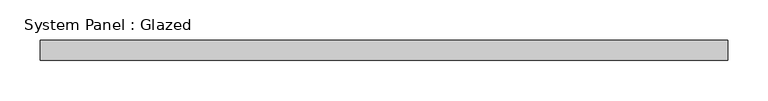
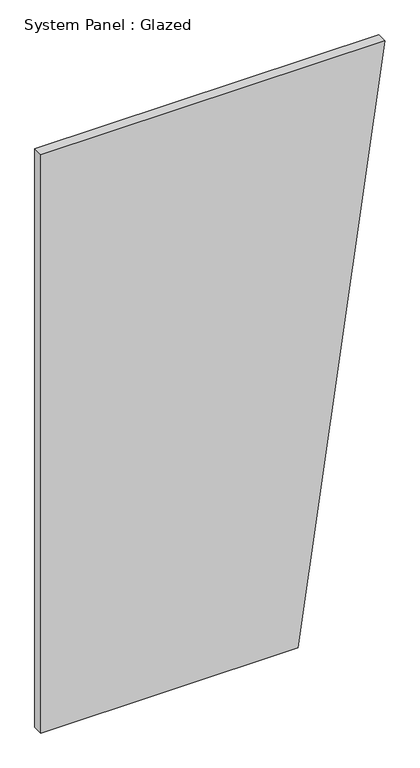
"""IFC4 building model written with IfcOpenShell, lengths in millimetres: plate geometry, System Panel : Glazed."""

import ifcopenshell
import ifcopenshell.guid

model = None  # the IFC model being written
_history = None  # IfcOwnerHistory: only IFC2X3 demands one
_inside = {}  # id of a spatial element -> (the spatial element, [elements in it])
_under = {}  # id of a project, library or spatial element -> (it, [spatial elements below it])
_declared = {}  # id of a project -> (the project, [libraries it declares])
_typed = {}  # id of a type object -> (the type object, [elements of that type])
_made_of = {}  # id of a material, layer set ... -> (it, [elements and type objects made of it])


def new_model(schema):
    """Start an empty IFC model of exactly this schema.

    Asked for "IFC4X3", IfcOpenShell would pick the latest addendum, in which some entities
    have other attributes; the version numbers below select the first issue.
    IFC2X3 requires an IfcOwnerHistory on every rooted entity: one is made here for all.
    """
    global model, _history
    if schema == "IFC4X3":
        model = ifcopenshell.file(schema_version=(4, 3, 0, 0))
    else:
        model = ifcopenshell.file(schema=schema)
    _inside.clear()
    _under.clear()
    _declared.clear()
    _typed.clear()
    _made_of.clear()
    _history = None
    if model.schema == "IFC2X3":
        org = make("IfcOrganization", Name="unknown")
        user = make(
            "IfcPersonAndOrganization",
            ThePerson=make("IfcPerson", FamilyName="unknown"),
            TheOrganization=org,
        )
        app = make(
            "IfcApplication",
            ApplicationDeveloper=org,
            Version="unknown",
            ApplicationFullName="unknown",
            ApplicationIdentifier="unknown",
        )
        _history = make(
            "IfcOwnerHistory",
            OwningUser=user,
            OwningApplication=app,
            ChangeAction="ADDED",
            CreationDate=0,
        )
    return model


def make(cls, **values):
    """One entity of the class cls with the attributes given. An attribute that is None is left unset."""
    return model.create_entity(
        cls, **{name: value for name, value in values.items() if value is not None}
    )


def rooted(cls, **values):
    """An entity with a GlobalId (a new one), such as an element, a storey or a relation."""
    return make(cls, GlobalId=ifcopenshell.guid.new(), OwnerHistory=_history, **values)


def si_unit(unit_type, name, prefix=None):
    """IfcSIUnit, for example si_unit("LENGTHUNIT", "METRE", prefix="MILLI")."""
    return make("IfcSIUnit", UnitType=unit_type, Prefix=prefix, Name=name)


def assignment(units):
    """IfcUnitAssignment: the units of a project."""
    return None if units is None else make("IfcUnitAssignment", Units=units)


def point(xyz):
    """IfcCartesianPoint."""
    return None if xyz is None else make("IfcCartesianPoint", Coordinates=xyz)


def direction(xyz):
    """IfcDirection."""
    return None if xyz is None else make("IfcDirection", DirectionRatios=xyz)


def frame(location, z_axis=None, x_axis=None):
    """IfcAxis2Placement3D, a coordinate frame: its origin and axes. An axis left out is left unset."""
    return make(
        "IfcAxis2Placement3D",
        Location=point(location),
        Axis=direction(z_axis),
        RefDirection=direction(x_axis),
    )


def origin():
    """The frame at (0, 0, 0) with its axes left unset."""
    return frame((0.0, 0.0, 0.0))


def place(relative_to, where):
    """IfcLocalPlacement: puts the frame where relative to a parent placement (None: the world)."""
    return make(
        "IfcLocalPlacement", PlacementRelTo=relative_to, RelativePlacement=where
    )


def context(
    kind, dimensions, precision=None, world=None, true_north=None, identifier=None
):
    """IfcGeometricRepresentationContext, for example the 3D "Model" context."""
    return make(
        "IfcGeometricRepresentationContext",
        ContextIdentifier=identifier,
        ContextType=kind,
        CoordinateSpaceDimension=dimensions,
        Precision=precision,
        WorldCoordinateSystem=world,
        TrueNorth=true_north,
    )


def project(units=None, contexts=None):
    """IfcProject with its units and contexts."""
    return rooted(
        "IfcProject",
        Name="project",
        RepresentationContexts=contexts,
        UnitsInContext=assignment(units),
    )


def spatial(cls, under=None, at=None, **own):
    """A site, building, storey or space (cls), placed at a placement, below another one or the project."""
    s = rooted(cls, ObjectPlacement=at, **own)
    if under is not None:
        _under.setdefault(under.id(), (under, []))[1].append(s)
    return s


def polyline(points):
    """IfcPolyline through the points."""
    return make("IfcPolyline", Points=[point(p) for p in points])


def outline(outer, holes=None, kind="AREA"):
    """IfcArbitraryClosedProfileDef: a profile drawn as a closed curve; with holes, ...WithVoids."""
    if holes is None:
        return make("IfcArbitraryClosedProfileDef", ProfileType=kind, OuterCurve=outer)
    return make(
        "IfcArbitraryProfileDefWithVoids",
        ProfileType=kind,
        OuterCurve=outer,
        InnerCurves=holes,
    )


def extrude(swept, where, along, depth):
    """IfcExtrudedAreaSolid: the profile swept, set in the frame where, extruded along a direction by depth."""
    return make(
        "IfcExtrudedAreaSolid",
        SweptArea=swept,
        Position=where,
        ExtrudedDirection=direction(along),
        Depth=depth,
    )


def shape(context_of_items, identifier, shape_type, items):
    """IfcShapeRepresentation: the items that make up one representation, for example the "Body"."""
    return make(
        "IfcShapeRepresentation",
        ContextOfItems=context_of_items,
        RepresentationIdentifier=identifier,
        RepresentationType=shape_type,
        Items=items,
    )


def source(mapping_origin, context_of_items, identifier, shape_type, items):
    """IfcRepresentationMap: a shape defined once, which mapped items show again and again."""
    return make(
        "IfcRepresentationMap",
        MappingOrigin=mapping_origin,
        MappedRepresentation=shape(context_of_items, identifier, shape_type, items),
    )


def transform(
    local_origin,
    x_axis=None,
    y_axis=None,
    z_axis=None,
    scale=None,
    scale2=None,
    scale3=None,
    uniform=True,
):
    """IfcCartesianTransformationOperator3D, or its non-uniform kind. x_axis, y_axis, z_axis: its Axis1, 2, 3."""
    if uniform:
        return make(
            "IfcCartesianTransformationOperator3D",
            Axis1=direction(x_axis),
            Axis2=direction(y_axis),
            LocalOrigin=point(local_origin),
            Scale=scale,
            Axis3=direction(z_axis),
        )
    return make(
        "IfcCartesianTransformationOperator3DnonUniform",
        Axis1=direction(x_axis),
        Axis2=direction(y_axis),
        LocalOrigin=point(local_origin),
        Scale=scale,
        Axis3=direction(z_axis),
        Scale2=scale2,
        Scale3=scale3,
    )


def mapped(mapping_source, mapping_target):
    """IfcMappedItem: shows the shape of a source again, moved by a transform."""
    return make(
        "IfcMappedItem", MappingSource=mapping_source, MappingTarget=mapping_target
    )


def made_of(thing, what):
    """Note that an element or type object is made of a material, layer set ...; save() writes the relation."""
    if what is not None:
        _made_of.setdefault(what.id(), (what, []))[1].append(thing)
    return thing


def element(
    cls,
    number,
    at=None,
    inside=None,
    cuts=None,
    type_object=None,
    material=None,
    context=None,
    identifier="Body",
    shape_type=None,
    held_by="IfcProductDefinitionShape",
    body=None,
    shapes=None,
    **own,
):
    """One element of the class cls, such as IfcWall. Its Tag is "e" and its number.

    at: its placement. inside: the storey or other place that contains it. cuts: it is an
    opening in that element (IfcRelVoidsElement). A single representation is given by context,
    identifier, shape_type and body (its items); several are given by shapes. held_by: the class
    of the entity that holds the representations. save() writes the other relations.
    """
    e = rooted(cls, Tag="e%d" % number, ObjectPlacement=at, **own)
    if body is not None:
        shapes = [shape(context, identifier, shape_type, body)]
    if shapes is not None:
        e.Representation = make(held_by, Representations=shapes)
    if inside is not None:
        _inside.setdefault(inside.id(), (inside, []))[1].append(e)
    if cuts is not None:
        rooted(
            "IfcRelVoidsElement", RelatingBuildingElement=cuts, RelatedOpeningElement=e
        )
    if type_object is not None:
        _typed.setdefault(type_object.id(), (type_object, []))[1].append(e)
    return made_of(e, material)


def aggregate(whole, parts):
    """IfcRelAggregates: a whole, such as a stair, and the parts it consists of."""
    return rooted("IfcRelAggregates", RelatingObject=whole, RelatedObjects=parts)


def save(model, path):
    """Write the relations noted so far, then the file.

    IfcRelAggregates (storeys below a building ...), IfcRelContainedInSpatialStructure (elements
    in a storey), IfcRelDefinesByType, IfcRelAssociatesMaterial and IfcRelDeclares: one each for
    every whole, place, type object, material and project.
    """
    for whole, parts in _under.values():
        aggregate(whole, parts)
    for where, things in _inside.values():
        rooted(
            "IfcRelContainedInSpatialStructure",
            RelatedElements=things,
            RelatingStructure=where,
        )
    for kind, things in _typed.values():
        rooted("IfcRelDefinesByType", RelatedObjects=things, RelatingType=kind)
    for what, things in _made_of.values():
        rooted("IfcRelAssociatesMaterial", RelatedObjects=things, RelatingMaterial=what)
    for by, libraries in _declared.values():
        rooted("IfcRelDeclares", RelatingContext=by, RelatedDefinitions=libraries)
    model.write(path)


def system_panel_glazed_42b3e05b(model_context):
    return source(origin(), model_context, "Body", "SweptSolid", [
        extrude(outline(polyline([(0.0, -429.4081958), (0.0, 212.3628407), (1524.0, 429.4081958), (1524.0, -429.4081958), (0.0, -429.4081958)])), frame((0.0, 19.05, 0.0), z_axis=(0.0, 1.0, 0.0), x_axis=(0.0, 0.0, 1.0)), (0.0, 0.0, 1.0), 25.4),
    ])


if __name__ == "__main__":
    model = new_model("IFC4")
    model_context = context("Model", 3, world=origin())
    ifc_project = project(units=[si_unit("LENGTHUNIT", "METRE", prefix="MILLI")], contexts=[model_context])
    site = spatial("IfcSite", under=ifc_project)
    building = spatial("IfcBuilding", under=site)
    placement = place(None, origin())
    system_panel_glazed_shape = system_panel_glazed_42b3e05b(model_context)
    element("IfcPlate", 1, ObjectType="System Panel : Glazed", at=placement, inside=building, context=model_context, shape_type="MappedRepresentation", body=[
        mapped(system_panel_glazed_shape, transform((0.0, 0.0, 0.0), x_axis=(1.0, 0.0, 0.0), y_axis=(0.0, 1.0, 0.0), z_axis=(0.0, 0.0, 1.0))),
    ])
    save(model, "model.ifc")
